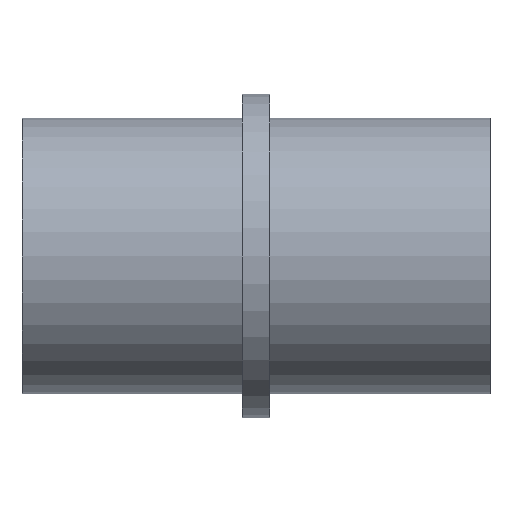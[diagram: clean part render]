
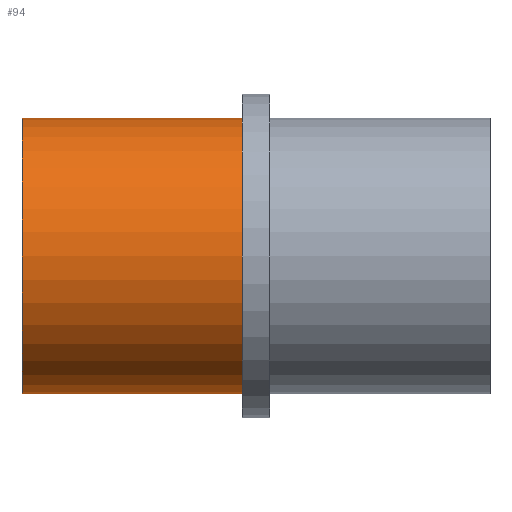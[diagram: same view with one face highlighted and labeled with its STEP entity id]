
A CAD part, front view. The second image highlights one B-rep face of the part: STEP entity #94.
In plain terms, the highlighted cylindrical face has radius 20 mm (diameter 40 mm), a full revolution.
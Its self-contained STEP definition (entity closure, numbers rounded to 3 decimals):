
#18=FACE_BOUND($,#35,.T.);
#28=FACE_OUTER_BOUND($,#34,.T.);
#34=EDGE_LOOP($,(#74));
#35=EDGE_LOOP($,(#75));
#50=CIRCLE($,#106,20.);
#51=CIRCLE($,#107,20.);
#58=VERTEX_POINT($,#157);
#59=VERTEX_POINT($,#159);
#66=EDGE_CURVE($,#58,#58,#50,.T.);
#67=EDGE_CURVE($,#59,#59,#51,.T.);
#74=ORIENTED_EDGE($,*,*,#66,.F.);
#75=ORIENTED_EDGE($,*,*,#67,.T.);
#90=CYLINDRICAL_SURFACE($,#105,20.);
#94=ADVANCED_FACE($,(#28,#18),#90,.T.);
#105=AXIS2_PLACEMENT_3D($,#156,#123,#124);
#106=AXIS2_PLACEMENT_3D($,#158,#125,#126);
#107=AXIS2_PLACEMENT_3D($,#160,#127,#128);
#123=DIRECTION('center_axis',(1.,0.,0.));
#124=DIRECTION('ref_axis',(0.,1.,0.));
#125=DIRECTION('center_axis',(1.,0.,0.));
#126=DIRECTION('ref_axis',(0.,1.,0.));
#127=DIRECTION('center_axis',(1.,0.,0.));
#128=DIRECTION('ref_axis',(0.,1.,0.));
#156=CARTESIAN_POINT('Origin',(16.,0.,0.));
#157=CARTESIAN_POINT('',(32.,20.,0.));
#158=CARTESIAN_POINT('Origin',(32.,0.,0.));
#159=CARTESIAN_POINT('',(0.,20.,0.));
#160=CARTESIAN_POINT('Origin',(0.,0.,
0.));
